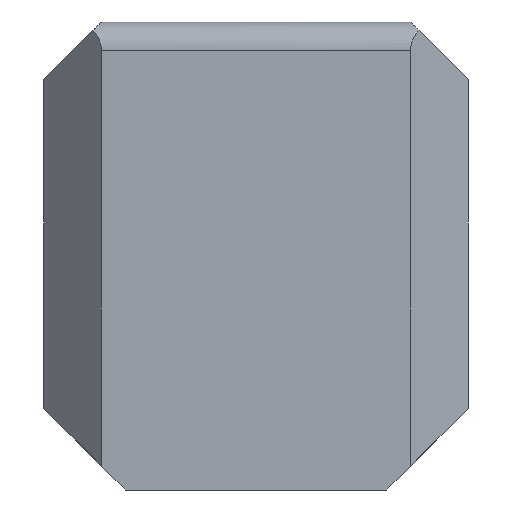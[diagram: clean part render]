
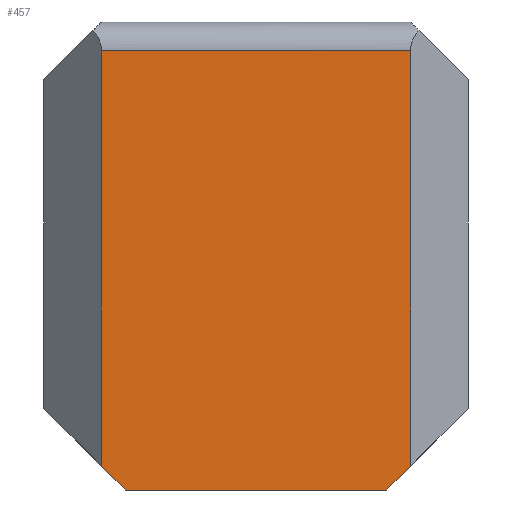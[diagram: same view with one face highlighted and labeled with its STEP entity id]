
A CAD part, front view. The second image highlights one B-rep face of the part: STEP entity #457.
In plain terms, the highlighted planar face has unit normal (0, -1, 0).
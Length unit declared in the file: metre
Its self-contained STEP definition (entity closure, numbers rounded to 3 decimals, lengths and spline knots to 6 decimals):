
#117=ORIENTED_EDGE('',*,*,#204,.T.);
#118=ORIENTED_EDGE('',*,*,#187,.F.);
#119=ORIENTED_EDGE('',*,*,#183,.F.);
#120=ORIENTED_EDGE('',*,*,#178,.F.);
#121=ORIENTED_EDGE('',*,*,#198,.F.);
#122=ORIENTED_EDGE('',*,*,#205,.T.);
#178=EDGE_CURVE('',#238,#233,#287,.T.);
#183=EDGE_CURVE('',#233,#241,#292,.F.);
#187=EDGE_CURVE('',#241,#243,#296,.F.);
#198=EDGE_CURVE('',#251,#238,#305,.T.);
#204=EDGE_CURVE('',#253,#243,#309,.F.);
#205=EDGE_CURVE('',#251,#253,#310,.T.);
#233=VERTEX_POINT('',#659);
#238=VERTEX_POINT('',#670);
#241=VERTEX_POINT('',#682);
#243=VERTEX_POINT('',#690);
#251=VERTEX_POINT('',#715);
#253=VERTEX_POINT('',#730);
#287=LINE('',#671,#345);
#292=LINE('',#681,#350);
#296=LINE('',#689,#354);
#305=LINE('',#716,#363);
#309=LINE('',#729,#367);
#310=LINE('',#731,#368);
#345=VECTOR('',#546,1.);
#350=VECTOR('',#557,1.);
#354=VECTOR('',#565,1.);
#363=VECTOR('',#580,1.);
#367=VECTOR('',#588,1.);
#368=VECTOR('',#589,1.);
#391=EDGE_LOOP('',(#117,#118,#119,#120,#121,#122));
#415=FACE_BOUND('',#391,.T.);
#437=PLANE('',#492);
#457=ADVANCED_FACE('',(#415),#437,.T.);
#492=AXIS2_PLACEMENT_3D('',#728,#586,#587);
#546=DIRECTION('',(-0.707,0.,-0.707));
#557=DIRECTION('',(1.,0.,0.));
#565=DIRECTION('',(0.707,0.,-0.707));
#580=DIRECTION('',(0.,0.,-1.));
#586=DIRECTION('',(0.,-1.,0.));
#587=DIRECTION('',(0.,0.,1.));
#588=DIRECTION('',(0.,0.,1.));
#589=DIRECTION('',(-1.,0.,0.));
#659=CARTESIAN_POINT('',(-0.038449,-0.00532,-0.028399));
#670=CARTESIAN_POINT('',(-0.038305,-0.00532,-0.028255));
#671=CARTESIAN_POINT('',(-0.037953,-0.00532,-0.027903));
#681=CARTESIAN_POINT('',(-0.040027,-0.00532,-0.028399));
#682=CARTESIAN_POINT('',(-0.040011,-0.00532,-0.028399));
#689=CARTESIAN_POINT('',(-0.040507,-0.00532,-0.027903));
#690=CARTESIAN_POINT('',(-0.040155,-0.00532,-0.028255));
#715=CARTESIAN_POINT('',(-0.038305,-0.00532,-0.025773));
#716=CARTESIAN_POINT('',(-0.038305,-0.00532,-0.025573));
#728=CARTESIAN_POINT('',(-0.040173,-0.00532,-0.028427));
#729=CARTESIAN_POINT('',(-0.040155,-0.00532,-0.028427));
#730=CARTESIAN_POINT('',(-0.040155,-0.00532,-0.025773));
#731=CARTESIAN_POINT('',(-0.040173,-0.00532,-0.025773));
